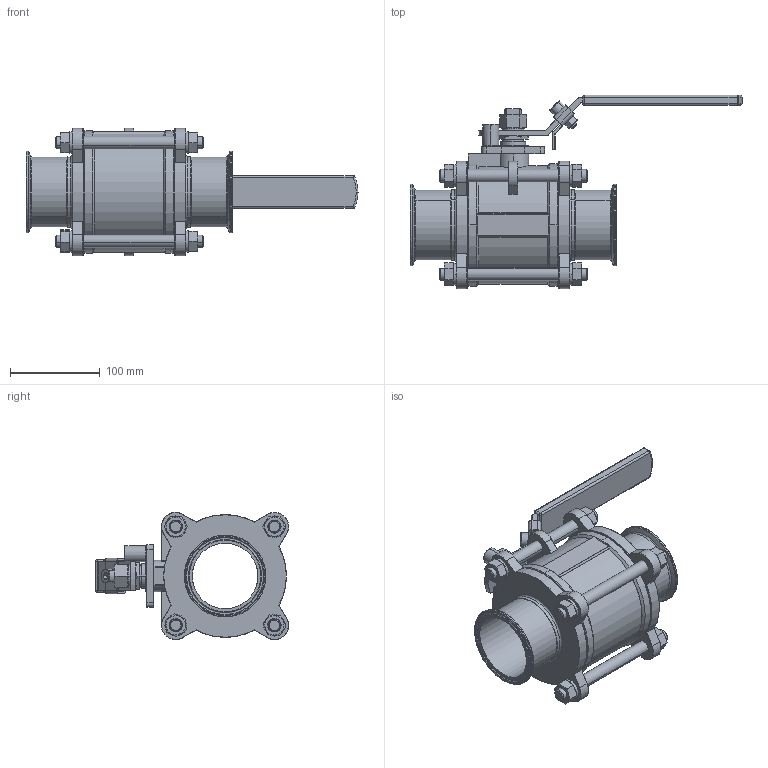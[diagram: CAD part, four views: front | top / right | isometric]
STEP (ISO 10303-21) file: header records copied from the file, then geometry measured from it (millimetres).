
FILE_DESCRIPTION (( 'STEP AP203' ), '1' );
FILE_NAME ('BAV-C-3.0.STEP', '2019-06-17T05:46:46', ( '' ), ( '' ), 'SwSTEP 2.0', 'SolidWorks 2014', '' );
FILE_SCHEMA (( 'CONFIG_CONTROL_DESIGN' ));
Length unit declared in the file: millimetre
Products named in the file (21): 2WAY-HANDLE-2.5-3.0; 2WAY-THRUST WASHER-2.5-3.0; 2WAY-STEM-2.5-3.0; 2WAY-HANDLE WASHERS-2.5-3.0; 2WAY-HANDLE-2.5-3.0-2; 2WAY-HANDLE-2.5-3.0-1; 2WAY-GASKET-3.0; BAV-C-3.0; 2WAY-BOLT NUT-3.0; 2WAY-STOP PIN-2.5-3.0; 2WAY-SEAT-3.0; 2WAY-HANDLE NUT-2.5-3.0; 2WAY-HANDLE-2.5-3.0-3; 2WAY-GLAND-2.5-3.0; 2WAY-HANDLE-2.5-3.0-3-1; 2WAY-BODY-3.0; 2WAY-STEM PACKINGS-3.0; 2WAY-BOLT WASHERS-3.0; 2WAY-BALL-3.0; 2WAY-BOLT-3.0; 2WAY-CAP-C-3.0
Assembly tree (40 placements, depth 2):
  BAV-C-3.0
    2WAY-BODY-3.0
    2WAY-STEM-2.5-3.0
    2WAY-THRUST WASHER-2.5-3.0
    2WAY-BALL-3.0
    2WAY-GLAND-2.5-3.0
    2WAY-STEM PACKINGS-3.0
    2WAY-GASKET-3.0  x2
    2WAY-SEAT-3.0  x2
    2WAY-CAP-C-3.0  x2
    2WAY-BOLT NUT-3.0  x8
    2WAY-BOLT WASHERS-3.0  x8
    2WAY-BOLT-3.0  x4
    2WAY-HANDLE WASHERS-2.5-3.0
    2WAY-HANDLE NUT-2.5-3.0
    2WAY-HANDLE-2.5-3.0
    2WAY-HANDLE-2.5-3.0-1
    2WAY-HANDLE-2.5-3.0-2
    2WAY-HANDLE-2.5-3.0-3
    2WAY-HANDLE-2.5-3.0-3-1
    2WAY-STOP PIN-2.5-3.0
Bounding box: 368.91 x 214.9 x 141.4 mm (x, y, z)
Volume: 1650422.9 mm3; surface area: 514575.9 mm2
Topology: 40 solids, 40 shells, 1130 faces, 2559 edges, 1502 vertices
Faces by surface type: cylinder 419, plane 265, torus 182, cone 174, sphere 47, bspline 43
Entity records: 26784 total; most frequent: CARTESIAN_POINT 5972, DIRECTION 4150, ORIENTED_EDGE 3560, EDGE_CURVE 1780, AXIS2_PLACEMENT_3D 1762, VERTEX_POINT 1036, CIRCLE 963, EDGE_LOOP 872
